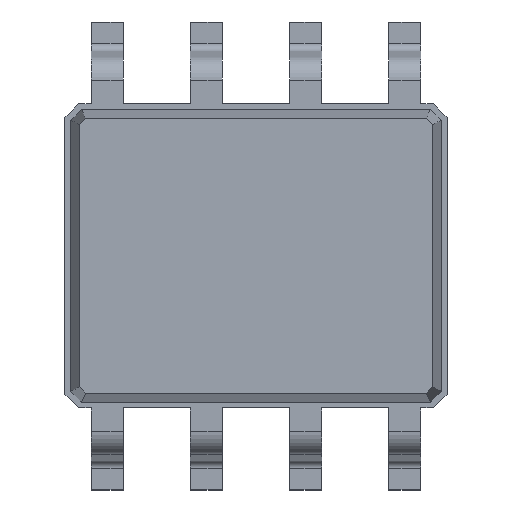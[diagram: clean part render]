
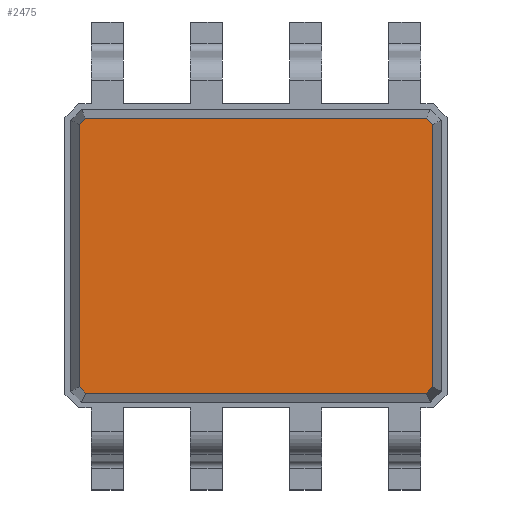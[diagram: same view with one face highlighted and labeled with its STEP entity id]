
A CAD part, top view. The second image highlights one B-rep face of the part: STEP entity #2475.
In plain terms, the highlighted planar face has unit normal (0, 0, 1).
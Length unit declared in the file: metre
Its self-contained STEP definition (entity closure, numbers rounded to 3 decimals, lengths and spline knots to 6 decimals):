
#406=ORIENTED_EDGE('',*,*,#1069,.F.);
#407=ORIENTED_EDGE('',*,*,#1070,.F.);
#408=ORIENTED_EDGE('',*,*,#1066,.F.);
#409=ORIENTED_EDGE('',*,*,#1057,.F.);
#410=ORIENTED_EDGE('',*,*,#1064,.F.);
#411=ORIENTED_EDGE('',*,*,#1071,.F.);
#412=ORIENTED_EDGE('',*,*,#1072,.F.);
#413=ORIENTED_EDGE('',*,*,#1073,.F.);
#1057=EDGE_CURVE('',#1363,#1364,#1605,.T.);
#1064=EDGE_CURVE('',#1369,#1363,#1610,.T.);
#1066=EDGE_CURVE('',#1364,#1370,#1612,.T.);
#1069=EDGE_CURVE('',#1372,#1373,#1615,.T.);
#1070=EDGE_CURVE('',#1370,#1372,#1616,.T.);
#1071=EDGE_CURVE('',#1374,#1369,#1617,.T.);
#1072=EDGE_CURVE('',#1375,#1374,#1618,.T.);
#1073=EDGE_CURVE('',#1373,#1375,#1619,.T.);
#1363=VERTEX_POINT('',#4042);
#1364=VERTEX_POINT('',#4044);
#1369=VERTEX_POINT('',#4057);
#1370=VERTEX_POINT('',#4062);
#1372=VERTEX_POINT('',#4068);
#1373=VERTEX_POINT('',#4069);
#1374=VERTEX_POINT('',#4072);
#1375=VERTEX_POINT('',#4074);
#1605=LINE('',#4043,#1901);
#1610=LINE('',#4058,#1906);
#1612=LINE('',#4061,#1908);
#1615=LINE('',#4067,#1911);
#1616=LINE('',#4070,#1912);
#1617=LINE('',#4071,#1913);
#1618=LINE('',#4073,#1914);
#1619=LINE('',#4075,#1915);
#1901=VECTOR('',#3321,1.);
#1906=VECTOR('',#3334,1.);
#1908=VECTOR('',#3338,1.);
#1911=VECTOR('',#3343,1.);
#1912=VECTOR('',#3344,1.);
#1913=VECTOR('',#3345,1.);
#1914=VECTOR('',#3346,1.);
#1915=VECTOR('',#3347,1.);
#2112=EDGE_LOOP('',(#406,#407,#408,#409,#410,#411,#412,#413));
#2244=FACE_BOUND('',#2112,.T.);
#2353=PLANE('',#2871);
#2475=ADVANCED_FACE('',(#2244),#2353,.F.);
#2871=AXIS2_PLACEMENT_3D('',#4066,#3341,#3342);
#3321=DIRECTION('',(0.,-1.,0.));
#3334=DIRECTION('',(0.707,-0.707,0.));
#3338=DIRECTION('',(-0.707,-0.707,0.));
#3341=DIRECTION('',(0.,0.,-1.));
#3342=DIRECTION('',(0.803,0.597,0.));
#3343=DIRECTION('',(-0.707,0.707,0.));
#3344=DIRECTION('',(-1.,0.,0.));
#3345=DIRECTION('',(1.,0.,0.));
#3346=DIRECTION('',(0.707,0.707,0.));
#3347=DIRECTION('',(0.,1.,0.));
#4042=CARTESIAN_POINT('',(0.155358,-0.100845,0.003345));
#4043=CARTESIAN_POINT('',(0.155358,-0.100845,0.003345));
#4044=CARTESIAN_POINT('',(0.155358,-0.104205,0.003345));
#4057=CARTESIAN_POINT('',(0.155278,-0.100765,0.003345));
#4058=CARTESIAN_POINT('',(0.155278,-0.100765,0.003345));
#4061=CARTESIAN_POINT('',(0.155358,-0.104205,0.003345));
#4062=CARTESIAN_POINT('',(0.155278,-0.104285,0.003345));
#4066=CARTESIAN_POINT('',(0.150837,-0.104205,0.003345));
#4067=CARTESIAN_POINT('',(0.150917,-0.104285,0.003345));
#4068=CARTESIAN_POINT('',(0.150917,-0.104285,0.003345));
#4069=CARTESIAN_POINT('',(0.150837,-0.104205,0.003345));
#4070=CARTESIAN_POINT('',(0.155278,-0.104285,0.003345));
#4071=CARTESIAN_POINT('',(0.150917,-0.100765,0.003345));
#4072=CARTESIAN_POINT('',(0.150917,-0.100765,0.003345));
#4073=CARTESIAN_POINT('',(0.150837,-0.100845,0.003345));
#4074=CARTESIAN_POINT('',(0.150837,-0.100845,0.003345));
#4075=CARTESIAN_POINT('',(0.150837,-0.104205,0.003345));
